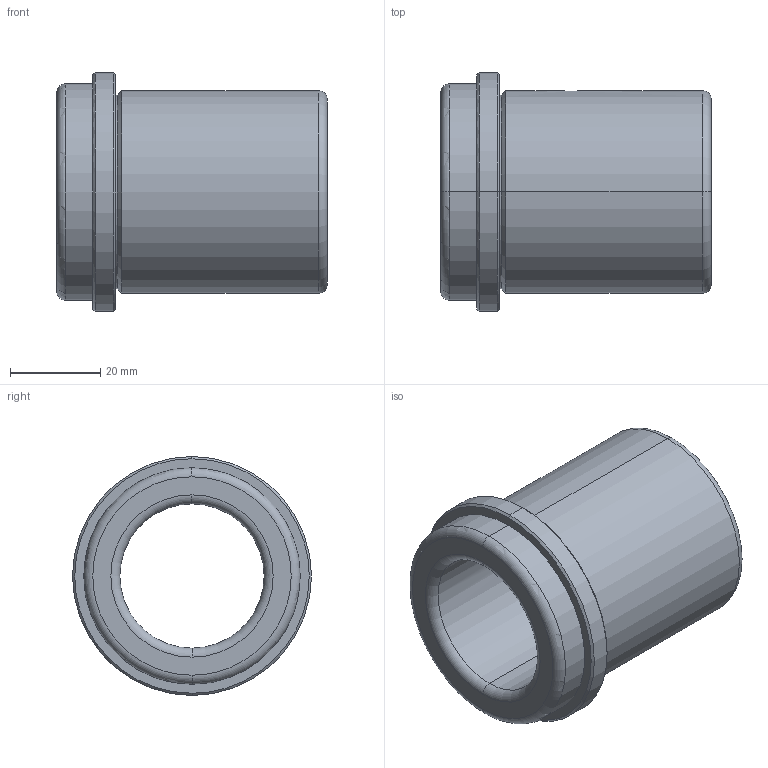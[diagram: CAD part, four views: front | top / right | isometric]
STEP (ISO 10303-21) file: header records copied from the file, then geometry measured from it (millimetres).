
FILE_DESCRIPTION(('CATIA V5 STEP Exchange'),'2;1');
FILE_NAME('C:\Users\Utente\Desktop\IO LAVORO\3D X SITO CF\X SITO\FAMO\FAMO-SF1-B32 x 60.stp','2021-01-06T17:12:13+00:00',('none'),('none'),'CATIA Version 5 Release 20 GA (IN-10)','CATIA V5 STEP AP203','none');
FILE_SCHEMA(('CONFIG_CONTROL_DESIGN'));
Length unit declared in the file: millimetre
Products named in the file (1): FAMO-SF1-B32 x 60
Bounding box: 60 x 53 x 53 mm (x, y, z)
Volume: 51012.8 mm3; surface area: 17446.5 mm2
Topology: 1 solids, 1 shells, 33 faces, 106 edges, 78 vertices
Faces by surface type: cylinder 12, torus 8, cone 8, plane 5
Entity records: 1444 total; most frequent: CARTESIAN_POINT 464, ORIENTED_EDGE 212, DIRECTION 158, AXIS2_PLACEMENT_3D 106, EDGE_CURVE 106, VERTEX_POINT 78, CIRCLE 72, EDGE_LOOP 40
